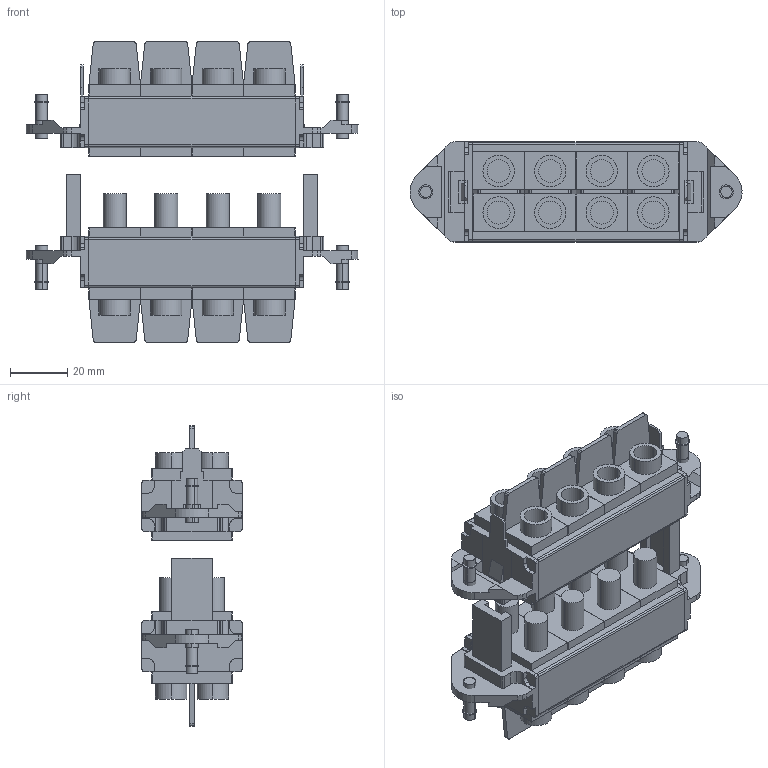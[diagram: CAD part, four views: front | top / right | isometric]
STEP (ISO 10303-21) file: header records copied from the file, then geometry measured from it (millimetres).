
FILE_DESCRIPTION(('CAx-IF Rec.Pracs.---Model Styling and Organization---1.2---2011-12-15','CAx-IF Rec.Pracs.---Geometric and Assembly Validation Properties---4.1---2014-06-16','CAx-IF Rec.Pracs.---PMI Polyline Presentation---2.0---2013-05-24'),'2;1');
FILE_NAME('R5M2WPC100.stp','2021-05-05T11:56:09+03:00',(''),(''),'STEP Interface 4.4 by CT CoreTechnologie','3D_Evolution4.4 by CT CoreTechnologie','');
FILE_SCHEMA(('AUTOMOTIVE_DESIGN { 1 0 10303 214 1 1 1 1 }'));
Length unit declared in the file: millimetre
Products named in the file (5): R5M2WPC100; Combitac 100A FeMale; Combitac 100A Male; M4 DIN 985 cl.5,0 Zinc_straight; M4x16 DIN 7985 PH cl4,8 Zinc_stright
Assembly tree (10 placements, depth 2):
  R5M2WPC100
    Combitac 100A FeMale
    Combitac 100A Male
    M4 DIN 985 cl.5,0 Zinc_straight  x4
    M4x16 DIN 7985 PH cl4,8 Zinc_stright  x4
Bounding box: 115.94 x 35 x 105 mm (x, y, z)
Surface area: 51174.6 mm2 (no closed solid volume)
Topology: 0 solids, 18 shells, 774 faces, 1984 edges, 1294 vertices
Faces by surface type: plane 490, cylinder 284
Entity records: 23204 total; most frequent: DIRECTION 4030, CARTESIAN_POINT 3979, ORIENTED_EDGE 3896, EDGE_CURVE 1948, VECTOR 1388, LINE 1388, AXIS2_PLACEMENT_3D 1321, VERTEX_POINT 1270
